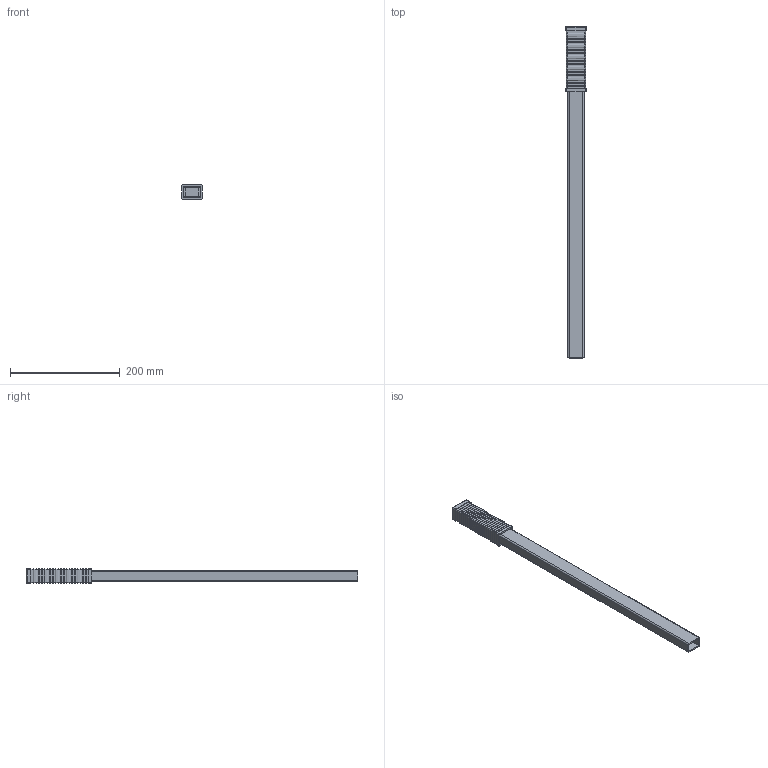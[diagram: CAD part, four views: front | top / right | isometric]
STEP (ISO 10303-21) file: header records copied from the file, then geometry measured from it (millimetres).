
FILE_DESCRIPTION( ( 'Unknown' ), '1' );
FILE_NAME( 'E:/POMPE SEMPLIFICATE/PAM0290000.stp', 'Unknown', ( 'Unknown' ), ( 'Unknown' ), 'PSStep 16.0.42', 'Unknown', ' ' );
FILE_SCHEMA( ( 'AUTOMOTIVE_DESIGN { 1 0 10303 214 1 1 1 1 }' ) );
Length unit declared in the file: millimetre
Products named in the file (3): Assem1; PAMJ010003; PAMJ010004
Assembly tree (2 placements, depth 2):
  Assem1
    PAMJ010003
    PAMJ010004
Bounding box: 37 x 605 x 27 mm (x, y, z)
Volume: 175154.6 mm3; surface area: 134327.8 mm2
Topology: 2 solids, 2 shells, 667 faces, 1635 edges, 976 vertices
Faces by surface type: cylinder 246, bspline 174, plane 173, torus 74
Entity records: 36609 total; most frequent: CARTESIAN_POINT 16470, ORIENTED_EDGE 3270, DIRECTION 2950, EDGE_CURVE 1635, AXIS2_PLACEMENT_3D 1173, VERTEX_POINT 976, EDGE_LOOP 673, CIRCLE 673
